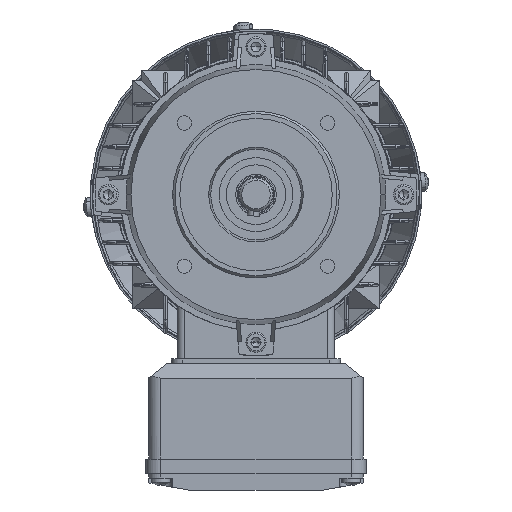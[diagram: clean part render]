
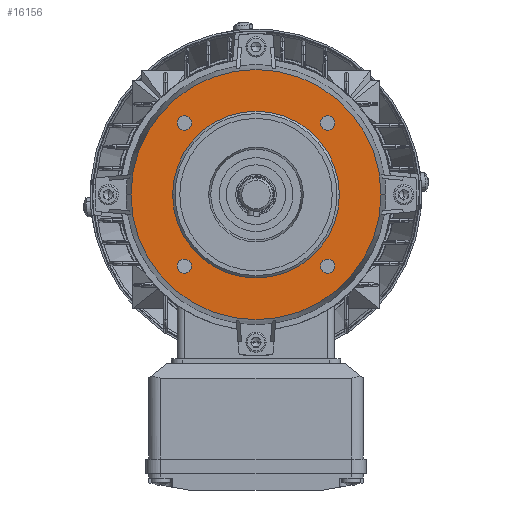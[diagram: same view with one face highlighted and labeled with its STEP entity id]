
A CAD part, front view. The second image highlights one B-rep face of the part: STEP entity #16156.
In plain terms, the highlighted planar face has unit normal (0, -1, 0).
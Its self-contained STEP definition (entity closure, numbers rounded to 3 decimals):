
#2138 = AXIS2_PLACEMENT_3D ( 'NONE', #2448, #69121, #86016 ) ;
#2146 = CARTESIAN_POINT ( 'NONE',  ( 38.721, -101.956, 30.052 ) ) ;
#2448 = CARTESIAN_POINT ( 'NONE',  ( 41.721, -101.956, -30.052 ) ) ;
#4676 = VERTEX_POINT ( 'NONE', #58277 ) ;
#6223 = EDGE_LOOP ( 'NONE', ( #49762, #119866 ) ) ;
#7759 = AXIS2_PLACEMENT_3D ( 'NONE', #93896, #105088, #29597 ) ;
#8694 = DIRECTION ( 'NONE',  ( 0., -1., 0. ) ) ;
#10365 = EDGE_CURVE ( 'NONE', #4676, #71862, #92068, .T. ) ;
#10466 = AXIS2_PLACEMENT_3D ( 'NONE', #37665, #75710, #114418 ) ;
#11742 = CIRCLE ( 'NONE', #7759, 35. ) ;
#15511 = EDGE_CURVE ( 'NONE', #26127, #99859, #71705, .T. ) ;
#16156 = ADVANCED_FACE ( 'NONE', ( #62180, #60946, #98395, #109605, #107769, #41613 ), #100239, .T. ) ;
#18019 = EDGE_LOOP ( 'NONE', ( #32718, #90581 ) ) ;
#18058 = CARTESIAN_POINT ( 'NONE',  ( -18.383, -101.956, -30.052 ) ) ;
#18413 = DIRECTION ( 'NONE',  ( 1., 0., 0. ) ) ;
#19053 = AXIS2_PLACEMENT_3D ( 'NONE', #26505, #85728, #18413 ) ;
#21613 = CARTESIAN_POINT ( 'NONE',  ( 46.669, -101.956, 0. ) ) ;
#22304 = DIRECTION ( 'NONE',  ( 0., -1., 0. ) ) ;
#22530 = CARTESIAN_POINT ( 'NONE',  ( 64.169, -101.956, 0. ) ) ;
#23166 = EDGE_CURVE ( 'NONE', #63889, #74100, #104043, .T. ) ;
#23772 = EDGE_LOOP ( 'NONE', ( #57228, #69115 ) ) ;
#25968 = CARTESIAN_POINT ( 'NONE',  ( 38.721, -101.956, -30.052 ) ) ;
#26127 = VERTEX_POINT ( 'NONE', #64926 ) ;
#26505 = CARTESIAN_POINT ( 'NONE',  ( -18.383, -101.956, -30.052 ) ) ;
#26881 = EDGE_LOOP ( 'NONE', ( #78863, #45412 ) ) ;
#29597 = DIRECTION ( 'NONE',  ( -1., 0., 0. ) ) ;
#30247 = DIRECTION ( 'NONE',  ( 0., -1., 0. ) ) ;
#31213 = VERTEX_POINT ( 'NONE', #21613 ) ;
#31345 = CARTESIAN_POINT ( 'NONE',  ( -18.383, -101.956, 30.052 ) ) ;
#32718 = ORIENTED_EDGE ( 'NONE', *, *, #118276, .F. ) ;
#33532 = AXIS2_PLACEMENT_3D ( 'NONE', #107955, #80479, #109172 ) ;
#33957 = CIRCLE ( 'NONE', #2138, 3. ) ;
#35491 = AXIS2_PLACEMENT_3D ( 'NONE', #107585, #30247, #88834 ) ;
#36209 = ORIENTED_EDGE ( 'NONE', *, *, #59307, .T. ) ;
#36768 = VERTEX_POINT ( 'NONE', #75593 ) ;
#37165 = DIRECTION ( 'NONE',  ( 1., 0., 0. ) ) ;
#37665 = CARTESIAN_POINT ( 'NONE',  ( 11.669, -101.956, 0. ) ) ;
#38404 = VERTEX_POINT ( 'NONE', #80383 ) ;
#38882 = DIRECTION ( 'NONE',  ( 1., 0., 0. ) ) ;
#41613 = FACE_BOUND ( 'NONE', #112092, .T. ) ;
#45360 = EDGE_CURVE ( 'NONE', #36768, #112222, #99412, .T. ) ;
#45412 = ORIENTED_EDGE ( 'NONE', *, *, #45360, .F. ) ;
#47039 = DIRECTION ( 'NONE',  ( -1., 0., 0. ) ) ;
#49762 = ORIENTED_EDGE ( 'NONE', *, *, #15511, .F. ) ;
#50799 = CARTESIAN_POINT ( 'NONE',  ( 41.721, -101.956, 30.052 ) ) ;
#52006 = DIRECTION ( 'NONE',  ( 0., -1., 0. ) ) ;
#55240 = CARTESIAN_POINT ( 'NONE',  ( -18.383, -101.956, 30.052 ) ) ;
#56244 = EDGE_CURVE ( 'NONE', #74100, #63889, #33957, .T. ) ;
#57228 = ORIENTED_EDGE ( 'NONE', *, *, #56244, .F. ) ;
#58277 = CARTESIAN_POINT ( 'NONE',  ( -15.383, -101.956, -30.052 ) ) ;
#59307 = EDGE_CURVE ( 'NONE', #31213, #109405, #98062, .T. ) ;
#59729 = DIRECTION ( 'NONE',  ( 1., 0., 0. ) ) ;
#60946 = FACE_BOUND ( 'NONE', #26881, .T. ) ;
#62180 = FACE_OUTER_BOUND ( 'NONE', #18019, .T. ) ;
#63889 = VERTEX_POINT ( 'NONE', #25968 ) ;
#64926 = CARTESIAN_POINT ( 'NONE',  ( 44.721, -101.956, 30.052 ) ) ;
#65043 = CARTESIAN_POINT ( 'NONE',  ( -21.383, -101.956, -30.052 ) ) ;
#66994 = DIRECTION ( 'NONE',  ( 0., 1., 0. ) ) ;
#67246 = EDGE_CURVE ( 'NONE', #112222, #36768, #78315, .T. ) ;
#67721 = AXIS2_PLACEMENT_3D ( 'NONE', #50799, #52006, #98201 ) ;
#69115 = ORIENTED_EDGE ( 'NONE', *, *, #23166, .F. ) ;
#69121 = DIRECTION ( 'NONE',  ( 0., -1., 0. ) ) ;
#69379 = DIRECTION ( 'NONE',  ( 0., -1., 0. ) ) ;
#71705 = CIRCLE ( 'NONE', #67721, 3. ) ;
#71862 = VERTEX_POINT ( 'NONE', #65043 ) ;
#73502 = CARTESIAN_POINT ( 'NONE',  ( -23.331, -101.956, 0. ) ) ;
#74100 = VERTEX_POINT ( 'NONE', #119633 ) ;
#75385 = DIRECTION ( 'NONE',  ( 1., 0., 0. ) ) ;
#75593 = CARTESIAN_POINT ( 'NONE',  ( -21.383, -101.956, 30.052 ) ) ;
#75710 = DIRECTION ( 'NONE',  ( 0., 1., 0. ) ) ;
#75741 = AXIS2_PLACEMENT_3D ( 'NONE', #121947, #66994, #47039 ) ;
#78315 = CIRCLE ( 'NONE', #100244, 3. ) ;
#78863 = ORIENTED_EDGE ( 'NONE', *, *, #67246, .F. ) ;
#79866 = CARTESIAN_POINT ( 'NONE',  ( 41.721, -101.956, -30.052 ) ) ;
#80383 = CARTESIAN_POINT ( 'NONE',  ( -40.831, -101.956, 0. ) ) ;
#80479 = DIRECTION ( 'NONE',  ( 0., 1., 0. ) ) ;
#82332 = DIRECTION ( 'NONE',  ( 1., 0., 0. ) ) ;
#83312 = CIRCLE ( 'NONE', #35491, 3. ) ;
#85170 = DIRECTION ( 'NONE',  ( 0., -1., 0. ) ) ;
#85728 = DIRECTION ( 'NONE',  ( 0., -1., 0. ) ) ;
#86016 = DIRECTION ( 'NONE',  ( 1., 0., 0. ) ) ;
#88834 = DIRECTION ( 'NONE',  ( 1., 0., 0. ) ) ;
#89411 = EDGE_CURVE ( 'NONE', #101452, #38404, #113271, .T. ) ;
#89835 = DIRECTION ( 'NONE',  ( 0., -1., 0. ) ) ;
#90581 = ORIENTED_EDGE ( 'NONE', *, *, #89411, .F. ) ;
#90585 = ORIENTED_EDGE ( 'NONE', *, *, #93814, .F. ) ;
#90875 = ORIENTED_EDGE ( 'NONE', *, *, #114627, .T. ) ;
#92068 = CIRCLE ( 'NONE', #96079, 3. ) ;
#93814 = EDGE_CURVE ( 'NONE', #71862, #4676, #98617, .T. ) ;
#93896 = CARTESIAN_POINT ( 'NONE',  ( 11.669, -101.956, 0. ) ) ;
#96079 = AXIS2_PLACEMENT_3D ( 'NONE', #18058, #8694, #75385 ) ;
#98062 = CIRCLE ( 'NONE', #10466, 35. ) ;
#98201 = DIRECTION ( 'NONE',  ( 1., 0., 0. ) ) ;
#98395 = FACE_BOUND ( 'NONE', #108695, .T. ) ;
#98617 = CIRCLE ( 'NONE', #19053, 3. ) ;
#99412 = CIRCLE ( 'NONE', #123316, 3. ) ;
#99630 = CARTESIAN_POINT ( 'NONE',  ( -40.831, -101.956, 0. ) ) ;
#99859 = VERTEX_POINT ( 'NONE', #2146 ) ;
#100239 = PLANE ( 'NONE',  #119296 ) ;
#100244 = AXIS2_PLACEMENT_3D ( 'NONE', #31345, #69379, #38882 ) ;
#101452 = VERTEX_POINT ( 'NONE', #22530 ) ;
#104043 = CIRCLE ( 'NONE', #117926, 3. ) ;
#105088 = DIRECTION ( 'NONE',  ( 0., 1., 0. ) ) ;
#107585 = CARTESIAN_POINT ( 'NONE',  ( 41.721, -101.956, 30.052 ) ) ;
#107634 = CIRCLE ( 'NONE', #75741, 52.5 ) ;
#107769 = FACE_BOUND ( 'NONE', #6223, .T. ) ;
#107955 = CARTESIAN_POINT ( 'NONE',  ( 11.669, -101.956, 0. ) ) ;
#108695 = EDGE_LOOP ( 'NONE', ( #123308, #90585 ) ) ;
#109172 = DIRECTION ( 'NONE',  ( -1., 0., 0. ) ) ;
#109405 = VERTEX_POINT ( 'NONE', #73502 ) ;
#109605 = FACE_BOUND ( 'NONE', #23772, .T. ) ;
#112092 = EDGE_LOOP ( 'NONE', ( #90875, #36209 ) ) ;
#112222 = VERTEX_POINT ( 'NONE', #116260 ) ;
#113271 = CIRCLE ( 'NONE', #33532, 52.5 ) ;
#114418 = DIRECTION ( 'NONE',  ( -1., 0., 0. ) ) ;
#114627 = EDGE_CURVE ( 'NONE', #109405, #31213, #11742, .T. ) ;
#116260 = CARTESIAN_POINT ( 'NONE',  ( -15.383, -101.956, 30.052 ) ) ;
#117926 = AXIS2_PLACEMENT_3D ( 'NONE', #79866, #89835, #82332 ) ;
#118276 = EDGE_CURVE ( 'NONE', #38404, #101452, #107634, .T. ) ;
#119296 = AXIS2_PLACEMENT_3D ( 'NONE', #99630, #22304, #59729 ) ;
#119633 = CARTESIAN_POINT ( 'NONE',  ( 44.721, -101.956, -30.052 ) ) ;
#119866 = ORIENTED_EDGE ( 'NONE', *, *, #121389, .F. ) ;
#121389 = EDGE_CURVE ( 'NONE', #99859, #26127, #83312, .T. ) ;
#121947 = CARTESIAN_POINT ( 'NONE',  ( 11.669, -101.956, 0. ) ) ;
#123308 = ORIENTED_EDGE ( 'NONE', *, *, #10365, .F. ) ;
#123316 = AXIS2_PLACEMENT_3D ( 'NONE', #55240, #85170, #37165 ) ;
